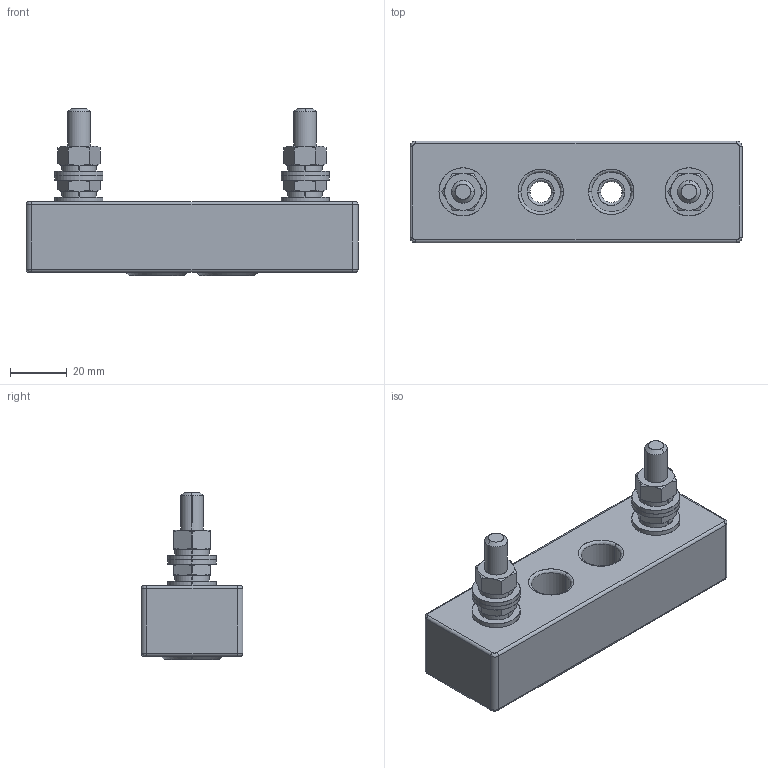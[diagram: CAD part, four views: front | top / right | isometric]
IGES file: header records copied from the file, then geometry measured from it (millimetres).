
Start section: SolidWorks IGES file using analytic representation for surfaces
Global section: file name: U:\14_RD\05_Technical_office\04_Office\Hrdinova\3D modely - IGES\Varius - Ostatní\SP40T06.IGS; native system: SolidWorks 2011; preprocessor: SolidWorks 2011; author: adhrja3; date: 170620.141529; units: millimetre
Bounding box: 117.5 x 36 x 59.2 mm (x, y, z)
Surface area: 28614 mm2 (no closed solid volume)
Topology: 0 solids, 0 shells, 344 faces, 4778 edges, 4778 vertices
Faces by surface type: revolution 176, bspline 168
